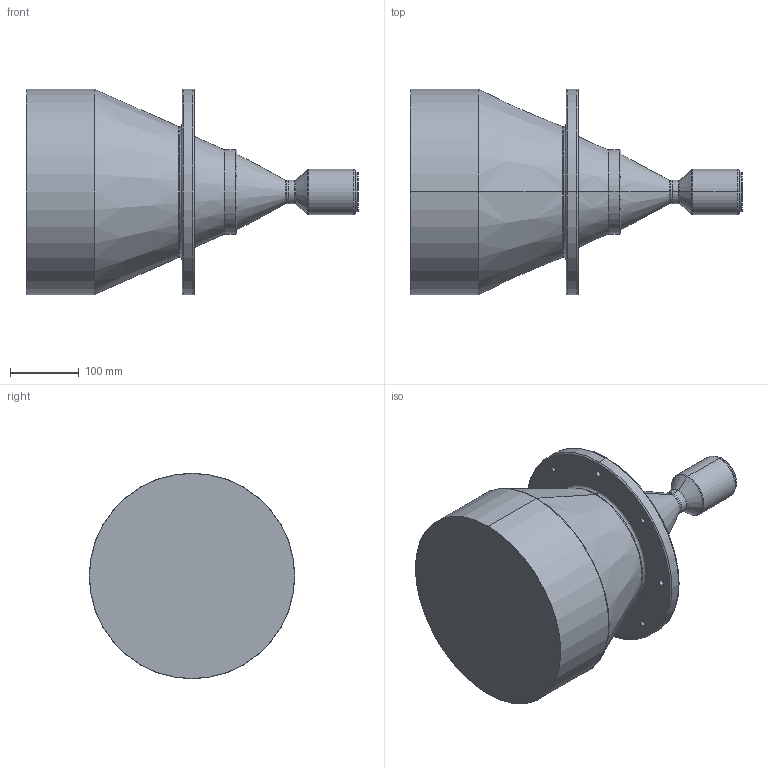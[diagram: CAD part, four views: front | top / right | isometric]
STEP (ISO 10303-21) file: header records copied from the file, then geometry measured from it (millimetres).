
FILE_DESCRIPTION (( 'STEP AP203' ), '1' );
FILE_NAME ('DTCM430H-258-M58-AL.STEP', '2021-03-15T06:20:08', ( 'Windows User' ), ( 'P R C' ), 'SwSTEP 2.0', 'SolidWorks 2017', '' );
FILE_SCHEMA (( 'CONFIG_CONTROL_DESIGN' ));
Length unit declared in the file: millimetre
Products named in the file (1): DTCM430H-258-M58-AL
Bounding box: 484.5 x 300 x 300 mm (x, y, z)
Volume: 15913361.9 mm3; surface area: 453379.6 mm2
Topology: 1 solids, 1 shells, 77 faces, 168 edges, 100 vertices
Faces by surface type: cylinder 34, cone 18, torus 16, plane 9
Entity records: 2239 total; most frequent: DIRECTION 440, CARTESIAN_POINT 346, ORIENTED_EDGE 336, AXIS2_PLACEMENT_3D 194, EDGE_CURVE 168, CIRCLE 116, VERTEX_POINT 100, EDGE_LOOP 100
